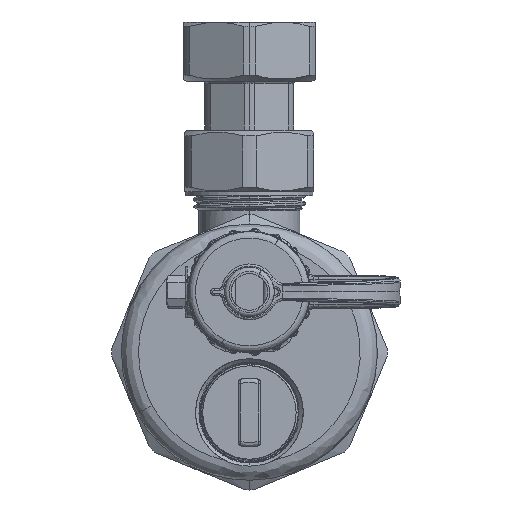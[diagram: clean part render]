
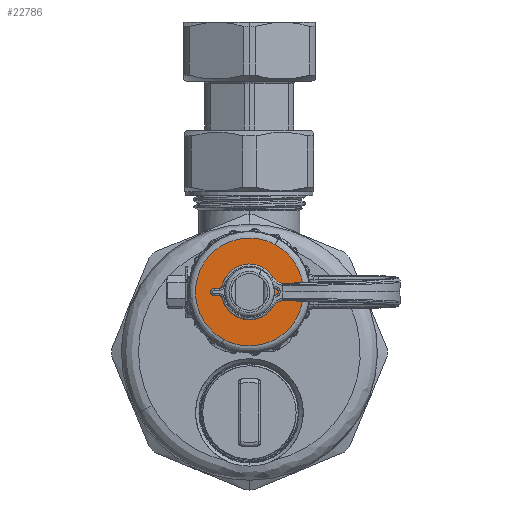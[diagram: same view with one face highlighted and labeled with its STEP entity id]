
A CAD part, front view. The second image highlights one B-rep face of the part: STEP entity #22786.
In plain terms, the highlighted planar face has unit normal (0, -1, 0).
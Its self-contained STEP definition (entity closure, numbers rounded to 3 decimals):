
#156 = VERTEX_POINT ( 'NONE', #99365 ) ;
#14434 = EDGE_LOOP ( 'NONE', ( #29604, #92897 ) ) ;
#15606 = CARTESIAN_POINT ( 'NONE',  ( 0., 0., 4.925 ) ) ;
#15864 = CARTESIAN_POINT ( 'NONE',  ( -15.982, 0., 23.006 ) ) ;
#22786 = ADVANCED_FACE ( 'NONE', ( #50167, #32382 ), #89475, .F. ) ;
#23541 = ORIENTED_EDGE ( 'NONE', *, *, #77655, .F. ) ;
#23548 = AXIS2_PLACEMENT_3D ( 'NONE', #81510, #31413, #64854 ) ;
#26661 = CARTESIAN_POINT ( 'NONE',  ( 6.006, 0., 10.994 ) ) ;
#27184 = CARTESIAN_POINT ( 'NONE',  ( -6.006, 0., -10.994 ) ) ;
#29604 = ORIENTED_EDGE ( 'NONE', *, *, #30316, .F. ) ;
#30316 = EDGE_CURVE ( 'NONE', #60367, #156, #92695, .T. ) ;
#31413 = DIRECTION ( 'NONE',  ( 0., -1., 0. ) ) ;
#32382 = FACE_OUTER_BOUND ( 'NONE', #65777, .T. ) ;
#35945 =( BOUNDED_CURVE ( )  B_SPLINE_CURVE ( 3, ( #56905, #89724, #15864, #48814 ),
 .UNSPECIFIED., .F., .T. ) 
 B_SPLINE_CURVE_WITH_KNOTS ( ( 4, 4 ),
 ( 0., 1. ),
 .UNSPECIFIED. ) 
 CURVE ( )  GEOMETRIC_REPRESENTATION_ITEM ( )  RATIONAL_B_SPLINE_CURVE ( ( 1., 0.333, 0.333, 1. ) ) 
 REPRESENTATION_ITEM ( '' )  );
#35985 = AXIS2_PLACEMENT_3D ( 'NONE', #104493, #89359, #48454 ) ;
#36157 = CARTESIAN_POINT ( 'NONE',  ( 6.006, 0., 10.994 ) ) ;
#37023 = EDGE_CURVE ( 'NONE', #51999, #60726, #90010, .T. ) ;
#41544 = DIRECTION ( 'NONE',  ( 0., 1., 0. ) ) ;
#44963 = CARTESIAN_POINT ( 'NONE',  ( -6.006, 0., -10.994 ) ) ;
#48454 = DIRECTION ( 'NONE',  ( 0., 0., 1. ) ) ;
#48814 = CARTESIAN_POINT ( 'NONE',  ( 6.006, 0., 10.994 ) ) ;
#50167 = FACE_BOUND ( 'NONE', #14434, .T. ) ;
#51999 = VERTEX_POINT ( 'NONE', #36157 ) ;
#56277 = CIRCLE ( 'NONE', #23548, 4.925 ) ;
#56905 = CARTESIAN_POINT ( 'NONE',  ( -6.006, 0., -10.994 ) ) ;
#59576 = CARTESIAN_POINT ( 'NONE',  ( 27.994, 0., -1.018 ) ) ;
#60367 = VERTEX_POINT ( 'NONE', #88108 ) ;
#60726 = VERTEX_POINT ( 'NONE', #44963 ) ;
#64854 = DIRECTION ( 'NONE',  ( 0., 0., 1. ) ) ;
#65777 = EDGE_LOOP ( 'NONE', ( #23541, #100872 ) ) ;
#77655 = EDGE_CURVE ( 'NONE', #60726, #51999, #35945, .T. ) ;
#81510 = CARTESIAN_POINT ( 'NONE',  ( 0., 0., 0. ) ) ;
#87894 = AXIS2_PLACEMENT_3D ( 'NONE', #15606, #41544, #90005 ) ;
#88108 = CARTESIAN_POINT ( 'NONE',  ( 0., 0., 4.925 ) ) ;
#89322 = EDGE_CURVE ( 'NONE', #156, #60367, #56277, .T. ) ;
#89359 = DIRECTION ( 'NONE',  ( 0., -1., 0. ) ) ;
#89475 = PLANE ( 'NONE',  #87894 ) ;
#89724 = CARTESIAN_POINT ( 'NONE',  ( -27.994, 0., 1.018 ) ) ;
#90005 = DIRECTION ( 'NONE',  ( 0., 0., 1. ) ) ;
#90010 =( BOUNDED_CURVE ( )  B_SPLINE_CURVE ( 3, ( #26661, #59576, #101033, #27184 ),
 .UNSPECIFIED., .F., .T. ) 
 B_SPLINE_CURVE_WITH_KNOTS ( ( 4, 4 ),
 ( 0., 1. ),
 .UNSPECIFIED. ) 
 CURVE ( )  GEOMETRIC_REPRESENTATION_ITEM ( )  RATIONAL_B_SPLINE_CURVE ( ( 1., 0.333, 0.333, 1. ) ) 
 REPRESENTATION_ITEM ( '' )  );
#92695 = CIRCLE ( 'NONE', #35985, 4.925 ) ;
#92897 = ORIENTED_EDGE ( 'NONE', *, *, #89322, .F. ) ;
#99365 = CARTESIAN_POINT ( 'NONE',  ( 0., 0., -4.925 ) ) ;
#100872 = ORIENTED_EDGE ( 'NONE', *, *, #37023, .F. ) ;
#101033 = CARTESIAN_POINT ( 'NONE',  ( 15.982, 0., -23.006 ) ) ;
#104493 = CARTESIAN_POINT ( 'NONE',  ( 0., 0., 0. ) ) ;
